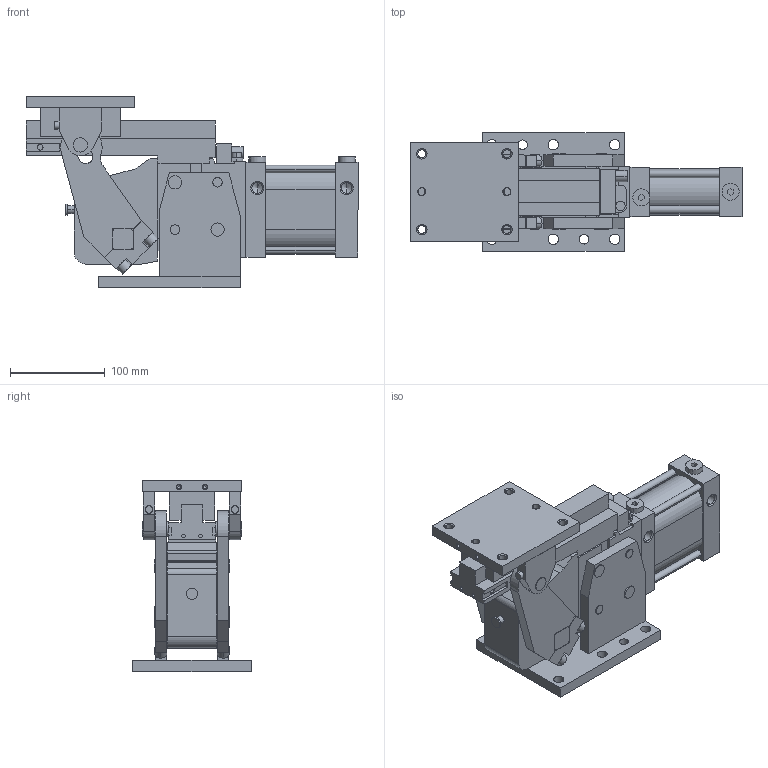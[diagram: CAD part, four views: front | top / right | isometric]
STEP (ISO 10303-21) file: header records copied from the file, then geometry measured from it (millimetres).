
FILE_DESCRIPTION (( 'STEP AP214' ), '1' );
FILE_NAME ('slcp63_90_xx_x_x.STEP', '2019-09-19T12:49:51', ( '' ), ( '' ), 'SwSTEP 2.0', 'SolidWorks 2019', '' );
FILE_SCHEMA (( 'AUTOMOTIVE_DESIGN' ));
Length unit declared in the file: millimetre
Products named in the file (6): slcp63_90_xx_x_x; tappo cil G1_4 din908_rondella rame; leva_slcp63; piastra_superiore_slcp63; blocchetto_VEP_0
Assembly tree (6 placements, depth 2):
  slcp63_90_xx_x_x
    slcp63_90_xx_x_x
    piastra_superiore_slcp63
    leva_slcp63
    blocchetto_VEP_0
    tappo cil G1_4 din908_rondella rame  x2
Bounding box: 351 x 125 x 202.5 mm (x, y, z)
Volume: 2649303.7 mm3; surface area: 336840.6 mm2
Topology: 13 solids, 27 shells, 582 faces, 1399 edges, 863 vertices
Faces by surface type: plane 277, cylinder 211, cone 94
Entity records: 17058 total; most frequent: DIRECTION 2927, CARTESIAN_POINT 2757, ORIENTED_EDGE 2626, EDGE_CURVE 1313, AXIS2_PLACEMENT_3D 1041, VECTOR 845, LINE 845, VERTEX_POINT 843
